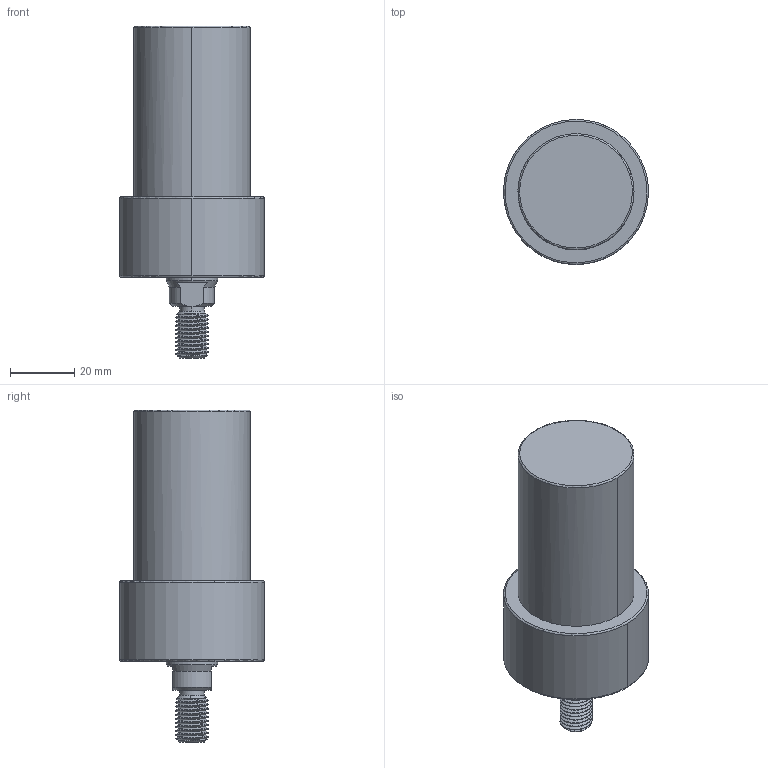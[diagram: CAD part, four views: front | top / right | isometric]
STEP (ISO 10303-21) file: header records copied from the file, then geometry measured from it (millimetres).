
FILE_DESCRIPTION((' '),'2;1');
FILE_NAME( 'TLLU-036GT-045.STEP.stp', '2025-10-24T16:37:07', (' '), ('--- Datakit www.datakit.com---'), ' Datakit CrossCadWare V2024.1 Dec 21 2023', 'Mastercam 2025', ' ');
FILE_SCHEMA(('AUTOMOTIVE_DESIGN { 1 0 10303 214 1 1 1 1 }'));
Length unit declared in the file: millimetre
Products named in the file (1): TLLU-036GT-045
Bounding box: 44.99 x 45 x 103 mm (x, y, z)
Volume: 95490.2 mm3; surface area: 14344.4 mm2
Topology: 1 solids, 1 shells, 88 faces, 294 edges, 209 vertices
Faces by surface type: cylinder 43, cone 26, plane 11, torus 6, bspline 2
Entity records: 8036 total; most frequent: CARTESIAN_POINT 5552, ORIENTED_EDGE 572, DIRECTION 468, EDGE_CURVE 286, VERTEX_POINT 209, AXIS2_PLACEMENT_3D 199, CIRCLE 112, B_SPLINE_CURVE_WITH_KNOTS 104
